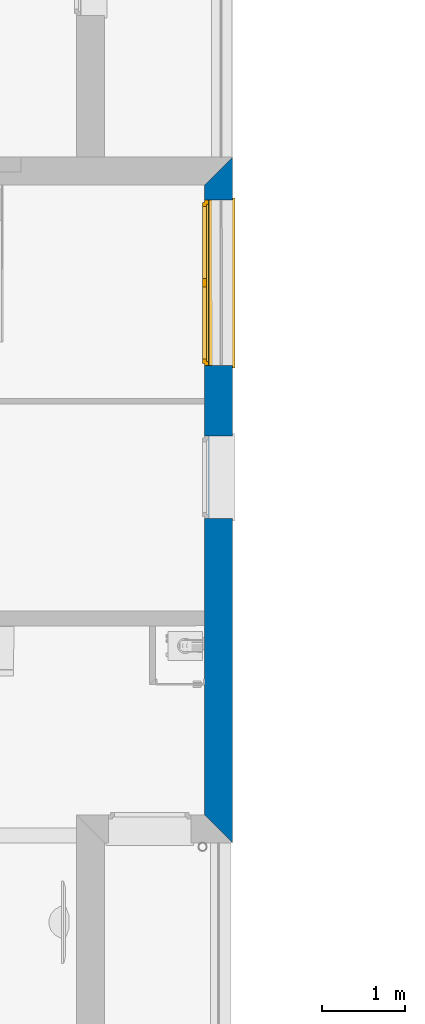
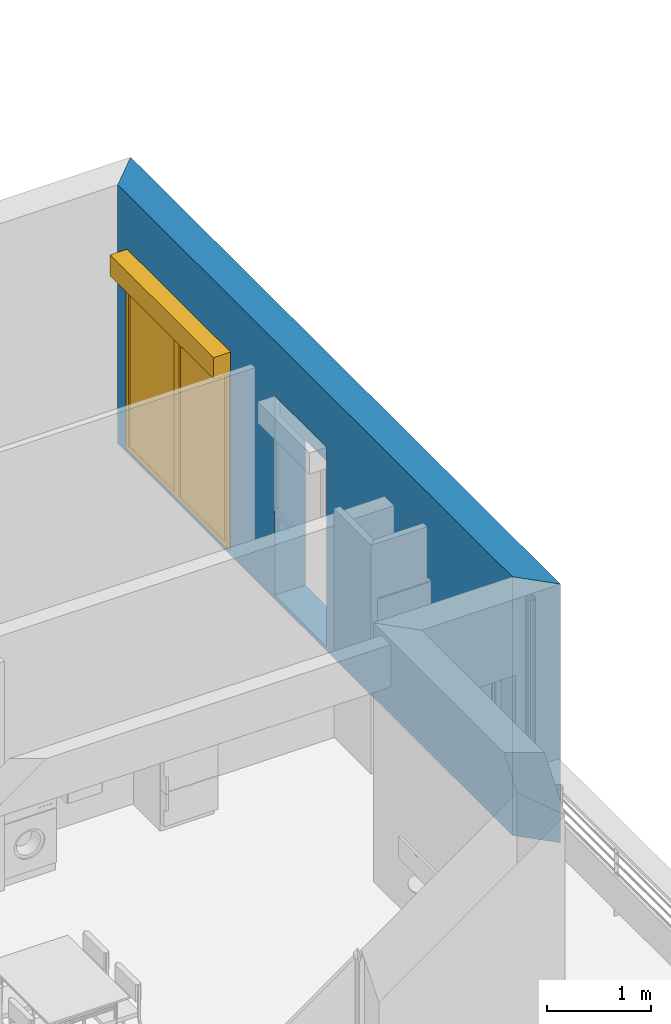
# One storey, part 18 of 165: 1 wall, 1 window, 2 openings.
"""IFC2X3 building model written with IfcOpenShell, lengths in millimetres."""

from ifc_helpers import new_model, entity, si_unit, converted_unit, derived_unit, money_unit, direction, frame, origin_with_axes, place, context, subcontext, project, spatial, polyline, outline, extrude, open_shell, faceted_brep, surface_model, source, transform, mapped, material, layer, layer_set, layer_usage, type_object, element, fill, save


model = new_model("IFC2X3")

# Units and contexts
model_context = context("Model", 3, precision=0.01, world=origin_with_axes(), true_north=direction((0.0, 1.0)))
body_context = subcontext(model_context, "Body", "Model", "MODEL_VIEW")
ifc_project = project(units=[si_unit("LENGTHUNIT", "METRE", prefix="MILLI"), si_unit("AREAUNIT", "SQUARE_METRE"), si_unit("VOLUMEUNIT", "CUBIC_METRE"), converted_unit("PLANEANGLEUNIT", "DEGREE", entity("IfcPlaneAngleMeasure", 0.0174532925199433), si_unit("PLANEANGLEUNIT", "RADIAN"), dimensions=[0, 0, 0, 0, 0, 0, 0]), money_unit("USD"), converted_unit("TIMEUNIT", "Year", entity("IfcTimeMeasure", 31557600.0), si_unit("TIMEUNIT", "SECOND"), dimensions=[0, 0, 1, 0, 0, 0, 0]), si_unit("MASSUNIT", "GRAM", prefix="KILO"), si_unit("THERMODYNAMICTEMPERATUREUNIT", "DEGREE_CELSIUS"), si_unit("LUMINOUSINTENSITYUNIT", "LUMEN"), si_unit("ENERGYUNIT", "JOULE", prefix="MEGA"), derived_unit("THERMALCONDUCTANCEUNIT", [(si_unit("POWERUNIT", "WATT"), 1), (si_unit("LENGTHUNIT", "METRE"), -1), (si_unit("THERMODYNAMICTEMPERATUREUNIT", "KELVIN"), -1)]), derived_unit("SPECIFICHEATCAPACITYUNIT", [(si_unit("ENERGYUNIT", "JOULE"), 1), (si_unit("MASSUNIT", "GRAM", prefix="KILO"), -1), (si_unit("THERMODYNAMICTEMPERATUREUNIT", "KELVIN"), -1)]), derived_unit("MASSDENSITYUNIT", [(si_unit("MASSUNIT", "GRAM", prefix="KILO"), 1), (si_unit("VOLUMEUNIT", "CUBIC_METRE"), -1)])], contexts=[model_context])

# Site, building, storey
site_placement = place(None, origin_with_axes())
site = spatial("IfcSite", under=ifc_project, at=site_placement, Name="Site", CompositionType="ELEMENT")
building_placement = place(site_placement, origin_with_axes())
building = spatial("IfcBuilding", under=site, at=building_placement, Name="Bâtiment", CompositionType="ELEMENT")
storey_placement = place(building_placement, frame((0.0, 0.0, 8500.0), z_axis=(0.0, 0.0, 1.0), x_axis=(1.0, 0.0, 0.0)))
storey = spatial("IfcBuildingStorey", under=building, at=storey_placement, Name="Etage 2", CompositionType="ELEMENT", Elevation=8500.0)

# Wall, openings, window
ifc_material_1 = material(Name="Parpaing 312445824")
ifc_layer_1 = layer(ifc_material_1, 180.0, ventilated="UNKNOWN")
ifc_material_2 = material(Name="Isolant styromousse 301821074")
ifc_layer_2 = layer(ifc_material_2, 160.0, ventilated="UNKNOWN")
ifc_layer_set = layer_set([ifc_layer_1, ifc_layer_2], Name="isol int 18+16 0018356637")
ifc_layer_usage = layer_usage(ifc_layer_set, "AXIS2", "POSITIVE", 0.0)
wall_type = type_object("IfcWallType", Name="isol int 18+16 0018356637 340", PredefinedType="NOTDEFINED")
wall_placement = place(storey_placement, frame((2234356.671296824, -655041.4677782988, 0.0), z_axis=(0.0, 0.0, 1.0), x_axis=(0.0, 1.0, 0.0)))
wall = element("IfcWallStandardCase", 1, at=wall_placement, inside=storey, type_object=wall_type, material=ifc_layer_usage, Name="Mur-144", context=body_context, shape_type="SweptSolid", body=[
    extrude(outline(polyline([(0.0, 0.0), (8303.026472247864, 0.0), (7963.026472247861, 340.0000000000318), (340.0000000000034, 340.0000000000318), (0.0, 0.0)])), origin_with_axes(), (0.0, 0.0, 1.0), 3050.0),
])
opening_1_placement = place(wall_placement, frame((4427.8378465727, -2.273736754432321e-10, 50.00000000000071), z_axis=(0.0, 0.0, 1.0), x_axis=(1.0, 0.0, 0.0)))
element("IfcOpeningElement", 2, at=opening_1_placement, cuts=wall, Name="Fen-133", context=body_context, shape_type="Brep", body=[
    faceted_brep([(500.0, 290.0000000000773, 2100.0), (500.0, 280.0000000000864, 2100.0), (500.0, -0.9999999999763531, 2100.0), (500.0, -0.9999999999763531, 0.0), (500.0, 290.0000000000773, 0.0), (500.0, 341.0000000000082, 2100.0), (500.0, 530.0000000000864, 2100.0), (500.0, 530.0000000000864, 2350.0), (500.0, 280.0000000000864, 2350.0), (-500.0, 280.0000000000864, 2100.0), (-500.0, -0.9999999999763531, 2100.0), (-500.0, -0.9999999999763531, 0.0), (-500.0, 290.0000000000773, 0.0), (-500.0, 341.0000000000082, 0.0), (500.0, 341.0000000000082, 0.0), (-500.0, 341.0000000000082, 2100.0), (-500.0, 530.0000000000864, 2100.0), (-500.0, 530.0000000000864, 2350.0), (-500.0, 280.0000000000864, 2350.0), (-500.0, 290.0000000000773, 2100.0)], [[[0, 1, 2, 3, 4]], [[1, 0, 5, 6, 7, 8]], [[1, 9, 10, 2]], [[10, 11, 3, 2]], [[4, 3, 11, 12, 13, 14]], [[5, 0, 4, 14]], [[5, 15, 16, 6]], [[7, 6, 16, 17]], [[8, 7, 17, 18]], [[9, 1, 8, 18]], [[9, 19, 12, 11, 10]], [[19, 15, 13, 12]], [[15, 5, 14, 13]], [[19, 9, 18, 17, 16, 15]]]),
])
opening_2_placement = place(wall_placement, frame((6781.330882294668, -2.273736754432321e-10, 50.00000000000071), z_axis=(0.0, 0.0, 1.0), x_axis=(1.0, 0.0, 0.0)))
opening_2 = element("IfcOpeningElement", 3, at=opening_2_placement, cuts=wall, Name="Fen-207", context=body_context, shape_type="Brep", body=[
    faceted_brep([(1000.0, 290.0000000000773, 2100.0), (1000.0, 280.0000000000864, 2100.0), (1000.0, -0.9999999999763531, 2100.0), (1000.0, -0.9999999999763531, 0.0), (1000.0, 290.0000000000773, 0.0), (1000.0, 341.0000000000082, 2100.0), (1000.0, 530.0000000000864, 2100.0), (1000.0, 530.0000000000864, 2350.0), (1000.0, 280.0000000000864, 2350.0), (-1000.0, 280.0000000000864, 2100.0), (-1000.0, -0.9999999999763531, 2100.0), (-1000.0, -0.9999999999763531, 0.0), (-1000.0, 290.0000000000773, 0.0), (-1000.0, 341.0000000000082, 0.0), (1000.0, 341.0000000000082, 0.0), (-1000.0, 341.0000000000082, 2100.0), (-1000.0, 530.0000000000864, 2100.0), (-1000.0, 530.0000000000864, 2350.0), (-1000.0, 280.0000000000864, 2350.0), (-1000.0, 290.0000000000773, 2100.0)], [[[0, 1, 2, 3, 4]], [[1, 0, 5, 6, 7, 8]], [[1, 9, 10, 2]], [[10, 11, 3, 2]], [[4, 3, 11, 12, 13, 14]], [[5, 0, 4, 14]], [[5, 15, 16, 6]], [[7, 6, 16, 17]], [[8, 7, 17, 18]], [[9, 1, 8, 18]], [[9, 19, 12, 11, 10]], [[19, 15, 13, 12]], [[15, 5, 14, 13]], [[19, 9, 18, 17, 16, 15]]]),
])
window_style = type_object("IfcWindowStyle", Name="Fenêtre châssis double variable 27", ConstructionType="NOTDEFINED", OperationType="DOUBLE_PANEL_VERTICAL", ParameterTakesPrecedence=False, Sizeable=False)
shared_shape = source(origin_with_axes(), body_context, "Body", "SurfaceModel", [
    surface_model("IfcShellBasedSurfaceModel", [(1000.0, -51.00000000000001, 40.00000000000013), (1000.0, -51.00000000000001, 50.00000000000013), (-1000.0, -51.00000000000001, 50.0), (-1000.0, -51.00000000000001, 40.0), (1030.0, -369.9999999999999, 28.96551724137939), (1030.0, -339.9999999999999, 30.00324289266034), (1000.0, -339.9999999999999, 30.00324289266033), (-1000.0, -339.9999999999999, 30.00324289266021), (-1030.0, -339.9999999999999, 30.00324289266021), (-1030.0, -369.9999999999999, 28.96551724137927), (1030.0, -369.9999999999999, 8.965517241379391), (-1030.0, -369.9999999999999, 8.965517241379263), (1030.0, -359.9999999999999, 18.96551724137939), (-1030.0, -359.9999999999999, 18.96551724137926)], [open_shell([[[0, 1, 2, 3]], [[4, 5, 6, 0, 3, 7, 8, 9]], [[10, 4, 9, 11]], [[12, 10, 11, 13]]])]),
    faceted_brep([(-1000.0, -60.00000000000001, 2350.0), (-997.0, -60.00000000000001, 2350.0), (-997.0, 190.0, 2350.0), (-1000.0, 190.0, 2350.0), (-1000.0, -60.00000000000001, 2100.0), (-997.0, -60.00000000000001, 2100.0), (-997.0, 190.0, 2100.0), (-1000.0, 190.0, 2100.0)], [[[0, 1, 2, 3]], [[4, 5, 1, 0]], [[1, 5, 6, 2]], [[3, 2, 6, 7]], [[0, 3, 7, 4]], [[7, 6, 5, 4]]]),
    faceted_brep([(997.0000000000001, -59.99999999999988, 2350.0), (1000.0, -59.99999999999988, 2350.0), (1000.0, 190.0000000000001, 2350.0), (997.0000000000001, 190.0000000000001, 2350.0), (997.0000000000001, -59.99999999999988, 2100.0), (1000.0, -59.99999999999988, 2100.0), (1000.0, 190.0000000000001, 2100.0), (997.0000000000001, 190.0000000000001, 2100.0)], [[[0, 1, 2, 3]], [[4, 5, 1, 0]], [[1, 5, 6, 2]], [[3, 2, 6, 7]], [[0, 3, 7, 4]], [[7, 6, 5, 4]]]),
    faceted_brep([(-997.0, -60.0, 2100.0), (997.0, -59.99999999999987, 2100.0), (997.0, -59.99999999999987, 2350.0), (-997.0, -60.0, 2350.0), (-997.0, -56.99999999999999, 2100.0), (997.0, -56.99999999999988, 2100.0), (997.0, -56.99999999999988, 2347.0), (997.0, 187.0000000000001, 2347.0), (997.0, 187.0000000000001, 2103.0), (997.0, -37.99999999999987, 2103.0), (997.0, -37.99999999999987, 2100.0), (997.0, 190.0000000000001, 2100.0), (997.0, 190.0000000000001, 2350.0), (-997.0, 190.0, 2350.0), (-997.0, 190.0, 2100.0), (-997.0, -37.99999999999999, 2100.0), (-997.0, -37.99999999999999, 2103.0), (-997.0, 187.0, 2103.0), (-997.0, 187.0, 2347.0), (-997.0, -56.99999999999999, 2347.0)], [[[0, 1, 2, 3]], [[4, 5, 1, 0]], [[1, 5, 6, 7, 8, 9, 10, 11, 12, 2]], [[3, 2, 12, 13]], [[0, 3, 13, 14, 15, 16, 17, 18, 19, 4]], [[19, 6, 5, 4]], [[18, 7, 6, 19]], [[17, 8, 7, 18]], [[16, 9, 8, 17]], [[15, 10, 9, 16]], [[14, 11, 10, 15]], [[13, 12, 11, 14]]]),
    faceted_brep([(-994.0, -40.37442957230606, 2206.419644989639), (-994.0, -41.99999999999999, 2225.0), (-994.0, -40.37442957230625, 2243.580355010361), (-994.0, -35.54711042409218, 2261.596155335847), (-994.0, -27.66471820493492, 2278.5), (-994.0, -16.96675541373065, 2293.77827423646), (-994.0, -3.778274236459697, 2306.966755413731), (-994.0, 11.5, 2317.664718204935), (-994.0, 28.40384466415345, 2325.547110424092), (-994.0, 46.41964498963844, 2330.374429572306), (-994.0, 64.99999999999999, 2332.0), (-994.0, 83.58035501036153, 2330.374429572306), (-994.0, 101.5961553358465, 2325.547110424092), (-994.0, 118.5, 2317.664718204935), (-994.0, 133.7782742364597, 2306.966755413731), (-994.0, 146.9667554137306, 2293.77827423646), (-994.0, 157.6647182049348, 2278.5), (-994.0, 165.5471104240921, 2261.596155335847), (-994.0, 170.3744295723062, 2243.580355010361), (-994.0, 171.9999999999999, 2225.0), (-994.0, 170.3744295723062, 2206.419644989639), (-994.0, 165.5471104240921, 2188.403844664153), (-994.0, 157.6647182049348, 2171.5), (-994.0, 146.9667554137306, 2156.22172576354), (-994.0, 133.7782742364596, 2143.03324458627), (-994.0, 118.4999999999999, 2132.335281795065), (-994.0, 101.5961553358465, 2124.452889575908), (-994.0, 83.58035501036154, 2119.625570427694), (-994.0, 65.00000000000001, 2118.0), (-994.0, 46.4196449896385, 2119.625570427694), (-994.0, 28.40384466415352, 2124.452889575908), (-994.0, 11.50000000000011, 2132.335281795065), (-994.0, -3.778274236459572, 2143.03324458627), (-994.0, -16.9667554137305, 2156.22172576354), (-994.0, -27.66471820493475, 2171.5), (-994.0, -35.54711042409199, 2188.403844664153), (994.0, -40.37442957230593, 2206.419644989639), (994.0, -41.99999999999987, 2225.0), (994.0, -40.37442957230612, 2243.580355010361), (994.0, -35.54711042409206, 2261.596155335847), (994.0, -27.6647182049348, 2278.5), (994.0, -16.96675541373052, 2293.77827423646), (994.0, -3.778274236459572, 2306.966755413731), (994.0, 11.50000000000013, 2317.664718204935), (994.0, 28.40384466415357, 2325.547110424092), (994.0, 46.41964498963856, 2330.374429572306), (994.0, 65.00000000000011, 2332.0), (994.0, 83.58035501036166, 2330.374429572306), (994.0, 101.5961553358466, 2325.547110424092), (994.0, 118.5000000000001, 2317.664718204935), (994.0, 133.7782742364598, 2306.966755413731), (994.0, 146.9667554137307, 2293.77827423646), (994.0, 157.664718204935, 2278.5), (994.0, 165.5471104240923, 2261.596155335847), (994.0, 170.3744295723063, 2243.580355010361), (994.0, 172.0, 2225.0), (994.0, 170.3744295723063, 2206.419644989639), (994.0, 165.5471104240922, 2188.403844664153), (994.0, 157.6647182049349, 2171.5), (994.0, 146.9667554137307, 2156.22172576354), (994.0, 133.7782742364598, 2143.03324458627), (994.0, 118.5000000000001, 2132.335281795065), (994.0, 101.5961553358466, 2124.452889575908), (994.0, 83.58035501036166, 2119.625570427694), (994.0, 65.00000000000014, 2118.0), (994.0, 46.41964498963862, 2119.625570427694), (994.0, 28.40384466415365, 2124.452889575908), (994.0, 11.50000000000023, 2132.335281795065), (994.0, -3.778274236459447, 2143.03324458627), (994.0, -16.96675541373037, 2156.22172576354), (994.0, -27.66471820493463, 2171.5), (994.0, -35.54711042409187, 2188.403844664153)], [[[0, 1, 2, 3, 4, 5, 6, 7, 8, 9, 10, 11, 12, 13, 14, 15, 16, 17, 18, 19, 20, 21, 22, 23, 24, 25, 26, 27, 28, 29, 30, 31, 32, 33, 34, 35]], [[0, 36, 37, 1]], [[1, 37, 38, 2]], [[2, 38, 39, 3]], [[3, 39, 40, 4]], [[4, 40, 41, 5]], [[5, 41, 42, 6]], [[6, 42, 43, 7]], [[7, 43, 44, 8]], [[8, 44, 45, 9]], [[9, 45, 46, 10]], [[10, 46, 47, 11]], [[11, 47, 48, 12]], [[12, 48, 49, 13]], [[13, 49, 50, 14]], [[14, 50, 51, 15]], [[15, 51, 52, 16]], [[16, 52, 53, 17]], [[17, 53, 54, 18]], [[18, 54, 55, 19]], [[19, 55, 56, 20]], [[20, 56, 57, 21]], [[21, 57, 58, 22]], [[22, 58, 59, 23]], [[23, 59, 60, 24]], [[24, 60, 61, 25]], [[25, 61, 62, 26]], [[26, 62, 63, 27]], [[27, 63, 64, 28]], [[28, 64, 65, 29]], [[29, 65, 66, 30]], [[30, 66, 67, 31]], [[31, 67, 68, 32]], [[32, 68, 69, 33]], [[33, 69, 70, 34]], [[34, 70, 71, 35]], [[35, 71, 36, 0]], [[36, 71, 70, 69, 68, 67, 66, 65, 64, 63, 62, 61, 60, 59, 58, 57, 56, 55, 54, 53, 52, 51, 50, 49, 48, 47, 46, 45, 44, 43, 42, 41, 40, 39, 38, 37]]]),
    faceted_brep([(1000.0, -34.99999999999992, 30.0), (1000.0, -34.99999999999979, 2100.0), (1000.0, -59.99999999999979, 2100.0), (1000.0, -59.99999999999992, 30.0), (975.0, -34.99999999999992, 30.0), (975.0, -34.99999999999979, 2100.0), (975.0, -37.99999999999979, 2100.0), (997.0, -37.99999999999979, 2100.0), (997.0, -56.99999999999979, 2100.0), (975.0, -56.99999999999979, 2100.0), (975.0, -59.99999999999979, 2100.0), (975.0, -59.99999999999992, 30.0), (975.0, -56.99999999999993, 30.0), (997.0, -56.99999999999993, 30.0), (997.0, -37.99999999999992, 30.0), (975.0, -37.99999999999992, 30.0)], [[[0, 1, 2, 3]], [[4, 5, 1, 0]], [[1, 5, 6, 7, 8, 9, 10, 2]], [[3, 2, 10, 11]], [[0, 3, 11, 12, 13, 14, 15, 4]], [[15, 6, 5, 4]], [[14, 7, 6, 15]], [[13, 8, 7, 14]], [[12, 9, 8, 13]], [[11, 10, 9, 12]]]),
    faceted_brep([(-1000.0, -34.99999999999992, 30.0), (-1000.0, -59.99999999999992, 30.0), (-1000.0, -59.99999999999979, 2100.0), (-1000.0, -34.99999999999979, 2100.0), (-975.0, -34.99999999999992, 30.0), (-975.0, -37.99999999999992, 30.0), (-997.0, -37.99999999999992, 30.0), (-997.0, -56.99999999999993, 30.0), (-975.0, -56.99999999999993, 30.0), (-975.0, -59.99999999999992, 30.0), (-975.0, -59.99999999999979, 2100.0), (-975.0, -56.99999999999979, 2100.0), (-997.0, -56.99999999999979, 2100.0), (-997.0, -37.99999999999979, 2100.0), (-975.0, -37.99999999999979, 2100.0), (-975.0, -34.99999999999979, 2100.0)], [[[0, 1, 2, 3]], [[0, 4, 5, 6, 7, 8, 9, 1]], [[1, 9, 10, 2]], [[3, 2, 10, 11, 12, 13, 14, 15]], [[4, 0, 3, 15]], [[5, 4, 15, 14]], [[6, 5, 14, 13]], [[7, 6, 13, 12]], [[8, 7, 12, 11]], [[9, 8, 11, 10]]]),
    faceted_brep([(997.0, -46.66666666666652, 2225.0), (997.0, -46.66666666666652, 2216.666666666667), (-997.0, -46.66666666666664, 2216.666666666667), (-997.0, -46.66666666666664, 2225.0), (997.0, -51.66666666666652, 2225.0), (997.0, -51.66666666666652, 2216.666666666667), (997.0, -49.99999999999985, 2200.0), (997.0, -44.99999999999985, 2200.0), (-997.0, -44.99999999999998, 2200.0), (-997.0, -49.99999999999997, 2200.0), (-997.0, -51.66666666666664, 2216.666666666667), (-997.0, -51.66666666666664, 2225.0)], [[[0, 1, 2, 3]], [[4, 5, 6, 7, 1, 0]], [[2, 1, 7, 8]], [[3, 2, 8, 9, 10, 11]], [[3, 11, 4, 0]], [[10, 5, 4, 11]], [[9, 6, 5, 10]], [[8, 7, 6, 9]]]),
    faceted_brep([(-997.0, -44.99999999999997, 2200.0), (997.0, -44.99999999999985, 2200.0), (997.0, -46.66666666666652, 2183.333333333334), (-997.0, -46.66666666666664, 2183.333333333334), (-997.0, -49.99999999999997, 2200.0), (997.0, -49.99999999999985, 2200.0), (997.0, -51.66666666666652, 2183.333333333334), (997.0, -51.66666666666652, 2166.666666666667), (997.0, -49.99999999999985, 2150.000000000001), (997.0, -44.99999999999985, 2150.000000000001), (997.0, -46.66666666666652, 2166.666666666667), (-997.0, -46.66666666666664, 2166.666666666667), (-997.0, -44.99999999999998, 2150.000000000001), (-997.0, -49.99999999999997, 2150.000000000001), (-997.0, -51.66666666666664, 2166.666666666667), (-997.0, -51.66666666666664, 2183.333333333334)], [[[0, 1, 2, 3]], [[4, 5, 1, 0]], [[1, 5, 6, 7, 8, 9, 10, 2]], [[3, 2, 10, 11]], [[0, 3, 11, 12, 13, 14, 15, 4]], [[15, 6, 5, 4]], [[14, 7, 6, 15]], [[13, 8, 7, 14]], [[12, 9, 8, 13]], [[11, 10, 9, 12]]]),
    faceted_brep([(-997.0, -44.99999999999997, 2150.000000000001), (997.0, -44.99999999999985, 2150.000000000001), (997.0, -46.66666666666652, 2133.333333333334), (-997.0, -46.66666666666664, 2133.333333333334), (-997.0, -49.99999999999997, 2150.000000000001), (997.0, -49.99999999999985, 2150.000000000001), (997.0, -51.66666666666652, 2133.333333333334), (997.0, -51.66666666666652, 2116.666666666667), (997.0, -49.99999999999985, 2100.000000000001), (997.0, -44.99999999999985, 2100.000000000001), (997.0, -46.66666666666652, 2116.666666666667), (-997.0, -46.66666666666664, 2116.666666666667), (-997.0, -44.99999999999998, 2100.000000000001), (-997.0, -49.99999999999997, 2100.000000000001), (-997.0, -51.66666666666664, 2116.666666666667), (-997.0, -51.66666666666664, 2133.333333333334)], [[[0, 1, 2, 3]], [[4, 5, 1, 0]], [[1, 5, 6, 7, 8, 9, 10, 2]], [[3, 2, 10, 11]], [[0, 3, 11, 12, 13, 14, 15, 4]], [[15, 6, 5, 4]], [[14, 7, 6, 15]], [[13, 8, 7, 14]], [[12, 9, 8, 13]], [[11, 10, 9, 12]]]),
    faceted_brep([(-975.0, 0.0, 2050.0), (-1000.0, 0.0, 2050.0), (-1000.0, -50.00000000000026, 2050.0), (-950.0, -50.00000000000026, 2050.0), (-950.0, -25.00000000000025, 2050.0), (-975.0, -25.00000000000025, 2050.0), (-975.0, 0.0, 50.00000000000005), (-1000.0, 0.0, 50.00000000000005), (-1000.0, -50.00000000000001, 50.00000000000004), (-950.0, -50.00000000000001, 50.00000000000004), (-950.0, -25.00000000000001, 50.00000000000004), (-975.0, -25.00000000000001, 50.00000000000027)], [[[0, 1, 2, 3, 4, 5]], [[6, 7, 1, 0]], [[1, 7, 8, 2]], [[2, 8, 9, 3]], [[4, 3, 9, 10]], [[10, 11, 5, 4]], [[5, 11, 6, 0]], [[11, 10, 9, 8, 7, 6]]]),
    faceted_brep([(950.0, -25.00000000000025, 2050.0), (950.0, -50.00000000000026, 2050.0), (1000.0, -50.00000000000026, 2050.0), (1000.0, 0.0, 2050.0), (975.0, 0.0, 2050.0), (975.0, -25.00000000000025, 2050.0), (950.0, -25.00000000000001, 50.00000000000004), (950.0, -50.00000000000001, 50.00000000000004), (1000.0, -50.00000000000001, 50.00000000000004), (1000.0, 0.0, 50.00000000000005), (975.0, 0.0, 50.00000000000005), (975.0, -25.00000000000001, 50.00000000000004)], [[[0, 1, 2, 3, 4, 5]], [[6, 7, 1, 0]], [[8, 2, 1, 7]], [[9, 3, 2, 8]], [[4, 3, 9, 10]], [[10, 11, 5, 4]], [[5, 11, 6, 0]], [[11, 10, 9, 8, 7, 6]]]),
    faceted_brep([(950.0, -25.00000000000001, 50.00000000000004), (950.0, -50.00000000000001, 50.00000000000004), (1000.0, -50.00000000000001, 50.00000000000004), (1000.0, 0.0, 50.00000000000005), (975.0, 0.0, 50.00000000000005), (975.0, -25.00000000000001, 50.00000000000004), (-950.0, -25.00000000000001, 50.00000000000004), (-950.0, -50.00000000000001, 50.00000000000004), (-1000.0, -50.00000000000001, 50.00000000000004), (-1000.0, -50.0, 0.0), (1000.0, -50.0, 0.0), (1000.0, 0.0, 0.0), (-975.0, 0.0, 24.99999999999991), (975.0, 0.0, 24.99999999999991), (-1000.0, 0.0, 0.0), (-1000.0, 0.0, 50.00000000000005), (-975.0, 0.0, 50.00000000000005), (975.0, -25.0, 24.99999999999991), (-975.0, -25.0, 24.99999999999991), (-975.0, -25.00000000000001, 50.00000000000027)], [[[0, 1, 2, 3, 4, 5]], [[6, 7, 1, 0]], [[8, 9, 10, 2, 1, 7]], [[11, 3, 2, 10]], [[12, 13, 4, 3, 11, 14, 15, 16]], [[13, 17, 5, 4]], [[5, 17, 18, 19, 6, 0]], [[19, 16, 15, 8, 7, 6]], [[15, 14, 9, 8]], [[14, 11, 10, 9]], [[12, 18, 17, 13]], [[19, 18, 12, 16]]]),
    faceted_brep([(-975.0, 0.0, 2050.0), (-1000.0, 0.0, 2050.0), (-1000.0, 0.0, 2100.0), (1000.0, 0.0, 2100.0), (1000.0, 0.0, 2050.0), (975.0, 0.0, 2050.0), (975.0, 0.0, 2075.0), (-975.0, 0.0, 2075.0), (-975.0, -25.00000000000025, 2050.0), (-950.0, -25.00000000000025, 2050.0), (-950.0, -50.00000000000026, 2050.0), (-1000.0, -50.00000000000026, 2050.0), (-1000.0, -50.00000000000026, 2100.0), (1000.0, -50.00000000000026, 2100.0), (1000.0, -50.00000000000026, 2050.0), (975.0, -25.00000000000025, 2050.0), (950.0, -50.00000000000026, 2050.0), (950.0, -25.00000000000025, 2050.0), (975.0, -25.00000000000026, 2075.0), (-975.0, -25.00000000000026, 2075.0)], [[[0, 1, 2, 3, 4, 5, 6, 7]], [[8, 9, 10, 11, 1, 0]], [[2, 1, 11, 12]], [[3, 2, 12, 13]], [[4, 3, 13, 14]], [[15, 5, 4, 14, 16, 17]], [[5, 15, 18, 6]], [[6, 18, 19, 7]], [[7, 19, 8, 0]], [[17, 9, 8, 19, 18, 15]], [[17, 16, 10, 9]], [[14, 13, 12, 11, 10, 16]]]),
    faceted_brep([(-925.0, -25.00000000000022, 2025.0), (-925.0, 24.99999999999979, 2025.0), (-975.0, 24.99999999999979, 2025.0), (-975.0, -25.00000000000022, 2025.0), (-925.0, -24.99999999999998, 75.00000000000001), (-925.0, 25.00000000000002, 75.00000000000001), (-975.0, 25.00000000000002, 75.00000000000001), (-975.0, -24.99999999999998, 75.00000000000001)], [[[0, 1, 2, 3]], [[4, 5, 1, 0]], [[1, 5, 6, 2]], [[3, 2, 6, 7]], [[0, 3, 7, 4]], [[7, 6, 5, 4]]]),
    faceted_brep([(-49.99999999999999, -25.00000000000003, 75.00000000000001), (-49.99999999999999, 24.99999999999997, 75.00000000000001), (0.0, 24.99999999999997, 75.00000000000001), (0.0, -25.00000000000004, 75.00000000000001), (-49.99999999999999, -25.00000000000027, 2025.0), (-49.99999999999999, 24.99999999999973, 2025.0), (0.0, 24.99999999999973, 2025.0), (0.0, -25.00000000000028, 2025.0)], [[[0, 1, 2, 3]], [[4, 5, 1, 0]], [[1, 5, 6, 2]], [[3, 2, 6, 7]], [[0, 3, 7, 4]], [[7, 6, 5, 4]]]),
    faceted_brep([(0.0, -25.00000000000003, 25.0), (0.0, 24.99999999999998, 25.00000000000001), (0.0, 24.99999999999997, 75.00000000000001), (0.0, -25.00000000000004, 75.00000000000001), (-975.0, -24.99999999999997, 25.0), (-975.0, 25.00000000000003, 25.00000000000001), (-975.0, 25.00000000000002, 75.00000000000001), (-925.0, 25.00000000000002, 75.00000000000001), (-49.99999999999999, 24.99999999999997, 75.00000000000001), (-49.99999999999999, -25.00000000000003, 75.00000000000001), (-925.0, -24.99999999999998, 75.00000000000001), (-975.0, -24.99999999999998, 75.00000000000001)], [[[0, 1, 2, 3]], [[4, 5, 1, 0]], [[1, 5, 6, 7, 8, 2]], [[3, 2, 8, 9]], [[0, 3, 9, 10, 11, 4]], [[11, 6, 5, 4]], [[10, 7, 6, 11]], [[9, 8, 7, 10]]]),
    faceted_brep([(-975.0, -25.00000000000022, 2075.0), (-975.0, 24.99999999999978, 2075.0), (-975.0, 24.99999999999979, 2025.0), (-975.0, -25.00000000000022, 2025.0), (0.0, -25.00000000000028, 2075.0), (0.0, 24.99999999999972, 2075.0), (0.0, 24.99999999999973, 2025.0), (-49.99999999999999, 24.99999999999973, 2025.0), (-925.0, 24.99999999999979, 2025.0), (-925.0, -25.00000000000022, 2025.0), (-49.99999999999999, -25.00000000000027, 2025.0), (0.0, -25.00000000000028, 2025.0)], [[[0, 1, 2, 3]], [[4, 5, 1, 0]], [[1, 5, 6, 7, 8, 2]], [[3, 2, 8, 9]], [[0, 3, 9, 10, 11, 4]], [[11, 6, 5, 4]], [[10, 7, 6, 11]], [[9, 8, 7, 10]]]),
    surface_model("IfcShellBasedSurfaceModel", [(-925.0, -10.00000000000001, 75.00000000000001), (-49.99999999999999, -10.00000000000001, 75.00000000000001), (-49.99999999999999, -10.00000000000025, 2025.0), (-925.0, -10.00000000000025, 2025.0)], [open_shell([[[0, 1, 2, 3]]])]),
    surface_model("IfcShellBasedSurfaceModel", [(-925.0, 9.999999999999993, 75.00000000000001), (-925.0, 9.999999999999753, 2025.0), (-49.99999999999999, 9.999999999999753, 2025.0), (-49.99999999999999, 9.999999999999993, 75.00000000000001)], [open_shell([[[0, 1, 2, 3]]])]),
    faceted_brep([(49.99999999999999, -25.00000000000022, 2025.0), (49.99999999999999, 24.99999999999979, 2025.0), (0.0, 24.99999999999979, 2025.0), (0.0, -25.00000000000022, 2025.0), (49.99999999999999, -24.99999999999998, 75.00000000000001), (49.99999999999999, 25.00000000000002, 75.00000000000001), (0.0, 25.00000000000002, 75.00000000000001), (0.0, -24.99999999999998, 75.00000000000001)], [[[0, 1, 2, 3]], [[4, 5, 1, 0]], [[1, 5, 6, 2]], [[3, 2, 6, 7]], [[0, 3, 7, 4]], [[7, 6, 5, 4]]]),
    faceted_brep([(925.0, -25.00000000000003, 75.00000000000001), (925.0, 24.99999999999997, 75.00000000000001), (975.0, 24.99999999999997, 75.00000000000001), (975.0, -25.00000000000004, 75.00000000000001), (925.0, -25.00000000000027, 2025.0), (925.0, 24.99999999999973, 2025.0), (975.0, 24.99999999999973, 2025.0), (975.0, -25.00000000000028, 2025.0)], [[[0, 1, 2, 3]], [[4, 5, 1, 0]], [[1, 5, 6, 2]], [[3, 2, 6, 7]], [[0, 3, 7, 4]], [[7, 6, 5, 4]]]),
    faceted_brep([(975.0, -25.00000000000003, 25.0), (975.0, 24.99999999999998, 25.00000000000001), (975.0, 24.99999999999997, 75.00000000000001), (975.0, -25.00000000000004, 75.00000000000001), (0.0, -24.99999999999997, 25.0), (0.0, 25.00000000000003, 25.00000000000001), (0.0, 25.00000000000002, 75.00000000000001), (49.99999999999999, 25.00000000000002, 75.00000000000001), (925.0, 24.99999999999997, 75.00000000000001), (925.0, -25.00000000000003, 75.00000000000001), (49.99999999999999, -24.99999999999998, 75.00000000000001), (0.0, -24.99999999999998, 75.00000000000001)], [[[0, 1, 2, 3]], [[4, 5, 1, 0]], [[1, 5, 6, 7, 8, 2]], [[3, 2, 8, 9]], [[0, 3, 9, 10, 11, 4]], [[11, 6, 5, 4]], [[10, 7, 6, 11]], [[9, 8, 7, 10]]]),
    faceted_brep([(0.0, -25.00000000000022, 2075.0), (0.0, 24.99999999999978, 2075.0), (0.0, 24.99999999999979, 2025.0), (0.0, -25.00000000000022, 2025.0), (975.0, -25.00000000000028, 2075.0), (975.0, 24.99999999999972, 2075.0), (975.0, 24.99999999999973, 2025.0), (925.0, 24.99999999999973, 2025.0), (49.99999999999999, 24.99999999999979, 2025.0), (49.99999999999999, -25.00000000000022, 2025.0), (925.0, -25.00000000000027, 2025.0), (975.0, -25.00000000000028, 2025.0)], [[[0, 1, 2, 3]], [[4, 5, 1, 0]], [[1, 5, 6, 7, 8, 2]], [[3, 2, 8, 9]], [[0, 3, 9, 10, 11, 4]], [[11, 6, 5, 4]], [[10, 7, 6, 11]], [[9, 8, 7, 10]]]),
    surface_model("IfcShellBasedSurfaceModel", [(49.99999999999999, -10.00000000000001, 75.00000000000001), (925.0, -10.00000000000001, 75.00000000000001), (925.0, -10.00000000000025, 2025.0), (49.99999999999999, -10.00000000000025, 2025.0)], [open_shell([[[0, 1, 2, 3]]])]),
    surface_model("IfcShellBasedSurfaceModel", [(49.99999999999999, 9.999999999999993, 75.00000000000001), (49.99999999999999, 9.999999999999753, 2025.0), (925.0, 9.999999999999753, 2025.0), (925.0, 9.999999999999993, 75.00000000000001)], [open_shell([[[0, 1, 2, 3]]])]),
])
window_placement = place(opening_2_placement, frame((-1000.000000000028, -2.273736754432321e-10, 0.0), z_axis=(0.0, 0.0, 1.0), x_axis=(1.0, 0.0, 0.0)))
window = element("IfcWindow", 4, at=window_placement, inside=storey, type_object=window_style, Name="Fen-207", OverallHeight=2100.0, OverallWidth=2000.0, context=body_context, shape_type="MappedRepresentation", body=[
    mapped(shared_shape, transform((1000.0, 340.0000000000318, 0.0))),
])
fill(opening_2, window)

save(model, "model.ifc")
